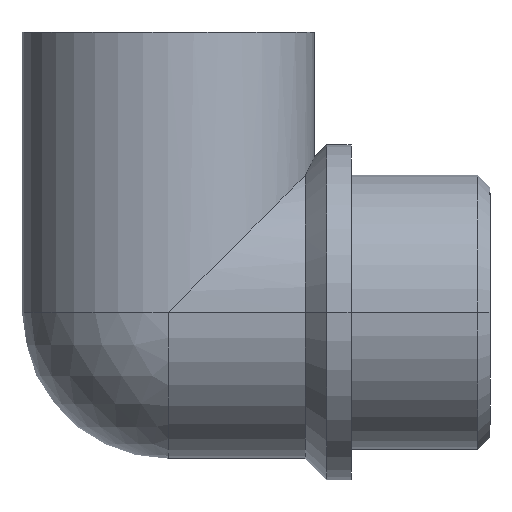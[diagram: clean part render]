
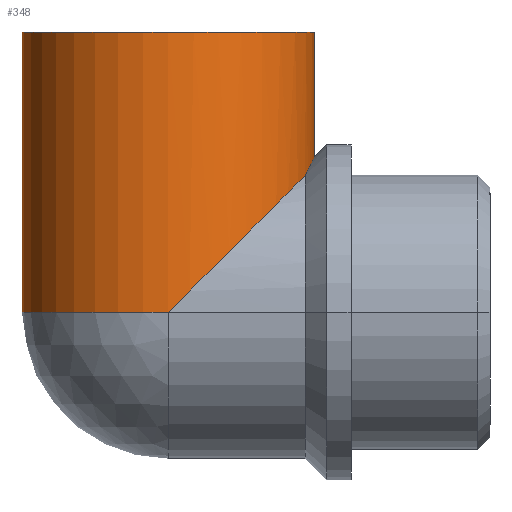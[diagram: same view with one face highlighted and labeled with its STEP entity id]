
A CAD part, front view. The second image highlights one B-rep face of the part: STEP entity #348.
In plain terms, the highlighted cylindrical face has radius 12 mm (diameter 24 mm), a partial arc.
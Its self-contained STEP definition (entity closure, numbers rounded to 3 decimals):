
#14 = EDGE_CURVE ( 'NONE', #271, #264, #863, .T. ) ;
#103 = EDGE_CURVE ( 'NONE', #205, #303, #1049, .T. ) ;
#140 = EDGE_CURVE ( 'NONE', #311, #258, #1179, .T. ) ;
#176 = EDGE_CURVE ( 'NONE', #303, #271, #1145, .T. ) ;
#205 = VERTEX_POINT ( 'NONE', #1228 ) ;
#258 = VERTEX_POINT ( 'NONE', #1458 ) ;
#263 = EDGE_CURVE ( 'NONE', #264, #258, #1472, .T. ) ;
#264 = VERTEX_POINT ( 'NONE', #1522 ) ;
#271 = VERTEX_POINT ( 'NONE', #1533 ) ;
#303 = VERTEX_POINT ( 'NONE', #1608 ) ;
#311 = VERTEX_POINT ( 'NONE', #1596 ) ;
#313 = EDGE_CURVE ( 'NONE', #205, #311, #1628, .T. ) ;
#320 = EDGE_LOOP ( 'NONE', ( #352, #361, #323, #324, #321, #322 ) ) ;
#321 = ORIENTED_EDGE ( 'NONE', *, *, #263, .F. ) ;
#322 = ORIENTED_EDGE ( 'NONE', *, *, #14, .F. ) ;
#323 = ORIENTED_EDGE ( 'NONE', *, *, #313, .T. ) ;
#324 = ORIENTED_EDGE ( 'NONE', *, *, #140, .T. ) ;
#348 = ADVANCED_FACE ( 'NONE', ( #1668 ), #1656, .T. ) ;
#352 = ORIENTED_EDGE ( 'NONE', *, *, #176, .F. ) ;
#361 = ORIENTED_EDGE ( 'NONE', *, *, #103, .F. ) ;
#732 = CARTESIAN_POINT ( 'NONE',  ( -15.15, -4.176, 11.25 ) ) ;
#733 = CARTESIAN_POINT ( 'NONE',  ( -15.041, -3.883, 11.475 ) ) ;
#734 = CARTESIAN_POINT ( 'NONE',  ( -14.94, -3.575, 11.68 ) ) ;
#735 = CARTESIAN_POINT ( 'NONE',  ( -14.757, -2.924, 12.049 ) ) ;
#736 = CARTESIAN_POINT ( 'NONE',  ( -14.676, -2.585, 12.209 ) ) ;
#737 = CARTESIAN_POINT ( 'NONE',  ( -14.576, -2.056, 12.406 ) ) ;
#738 = CARTESIAN_POINT ( 'NONE',  ( -14.546, -1.877, 12.465 ) ) ;
#739 = CARTESIAN_POINT ( 'NONE',  ( -14.494, -1.51, 12.567 ) ) ;
#740 = CARTESIAN_POINT ( 'NONE',  ( -14.472, -1.322, 12.611 ) ) ;
#741 = CARTESIAN_POINT ( 'NONE',  ( -14.418, -0.76, 12.715 ) ) ;
#756 = CARTESIAN_POINT ( 'NONE',  ( -14.4, -0.382, 12.75 ) ) ;
#757 = CARTESIAN_POINT ( 'NONE',  ( -14.4, 0., 12.75 ) ) ;
#863 = B_SPLINE_CURVE_WITH_KNOTS ( 'NONE', 3,
 ( #757, #756, #741, #740, #739, #738, #737, #736, #735, #734, #733, #732 ),
 .UNSPECIFIED., .F., .F.,
 ( 4, 2, 2, 2, 2, 4 ),
 ( 0.005, 0.006, 0.007, 0.007, 0.008, 0.009 ),
 .UNSPECIFIED. ) ;
#1049 = CIRCLE ( 'NONE', #1081, 12. ) ;
#1053 = CARTESIAN_POINT ( 'NONE',  ( -26.4, 0., 23. ) ) ;
#1079 = DIRECTION ( 'NONE',  ( 1., 0., 0. ) ) ;
#1080 = DIRECTION ( 'NONE',  ( 0., 0., 1. ) ) ;
#1081 = AXIS2_PLACEMENT_3D ( 'NONE', #1053, #1080, #1079 ) ;
#1100 = DIRECTION ( 'NONE',  ( 0., 0., 1. ) ) ;
#1126 = AXIS2_PLACEMENT_3D ( 'NONE', #1173, #1100, #1193 ) ;
#1142 = DIRECTION ( 'NONE',  ( 0., 0., -1. ) ) ;
#1143 = VECTOR ( 'NONE', #1142, 1000. ) ;
#1144 = CARTESIAN_POINT ( 'NONE',  ( -14.4, 0., 23. ) ) ;
#1145 = LINE ( 'NONE', #1144, #1143 ) ;
#1173 = CARTESIAN_POINT ( 'NONE',  ( -26.4, 0., 0. ) ) ;
#1179 = CIRCLE ( 'NONE', #1126, 12. ) ;
#1193 = DIRECTION ( 'NONE',  ( 1., 0., 0. ) ) ;
#1228 = CARTESIAN_POINT ( 'NONE',  ( -38.4, 0., 23. ) ) ;
#1458 = CARTESIAN_POINT ( 'NONE',  ( -26.4, -12., 0. ) ) ;
#1472 =( BOUNDED_CURVE ( )  B_SPLINE_CURVE ( 3, ( #1480, #1479, #1478, #1477 ),
 .UNSPECIFIED., .F., .T. ) 
 B_SPLINE_CURVE_WITH_KNOTS ( ( 4, 4 ),
 ( 0.355, 1.571 ),
 .UNSPECIFIED. ) 
 CURVE ( )  GEOMETRIC_REPRESENTATION_ITEM ( )  RATIONAL_B_SPLINE_CURVE ( ( 1., 0.881, 0.881, 1. ) ) 
 REPRESENTATION_ITEM ( '' )  );
#1477 = CARTESIAN_POINT ( 'NONE',  ( -26.4, -12., 0. ) ) ;
#1478 = CARTESIAN_POINT ( 'NONE',  ( -21.213, -12., 5.187 ) ) ;
#1479 = CARTESIAN_POINT ( 'NONE',  ( -16.955, -9.038, 9.445 ) ) ;
#1480 = CARTESIAN_POINT ( 'NONE',  ( -15.15, -4.176, 11.25 ) ) ;
#1522 = CARTESIAN_POINT ( 'NONE',  ( -15.15, -4.176, 11.25 ) ) ;
#1533 = CARTESIAN_POINT ( 'NONE',  ( -14.4, 0., 12.75 ) ) ;
#1596 = CARTESIAN_POINT ( 'NONE',  ( -38.4, 0., 0. ) ) ;
#1608 = CARTESIAN_POINT ( 'NONE',  ( -14.4, 0., 23. ) ) ;
#1625 = DIRECTION ( 'NONE',  ( 0., 0., -1. ) ) ;
#1626 = VECTOR ( 'NONE', #1625, 1000. ) ;
#1627 = CARTESIAN_POINT ( 'NONE',  ( -38.4, 0., 23. ) ) ;
#1628 = LINE ( 'NONE', #1627, #1626 ) ;
#1656 = CYLINDRICAL_SURFACE ( 'NONE', #1674, 12. ) ;
#1668 = FACE_OUTER_BOUND ( 'NONE', #320, .T. ) ;
#1673 = CARTESIAN_POINT ( 'NONE',  ( -26.4, 0., 23. ) ) ;
#1674 = AXIS2_PLACEMENT_3D ( 'NONE', #1673, #1692, #1691 ) ;
#1691 = DIRECTION ( 'NONE',  ( -1., 0., 0. ) ) ;
#1692 = DIRECTION ( 'NONE',  ( 0., 0., -1. ) ) ;
